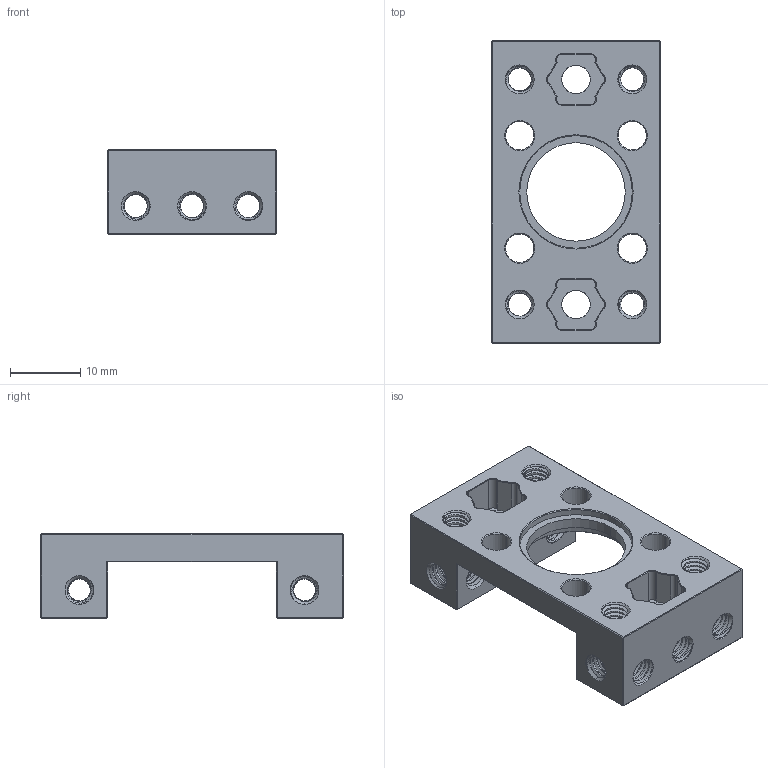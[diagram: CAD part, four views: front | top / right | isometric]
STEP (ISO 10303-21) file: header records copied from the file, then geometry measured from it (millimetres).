
FILE_DESCRIPTION (( 'STEP AP203' ), '1' );
FILE_NAME ('1201-0024-0001.STEP', '2021-02-05T21:26:14', ( '' ), ( '' ), 'SwSTEP 2.0', 'SolidWorks 2016', '' );
FILE_SCHEMA (( 'CONFIG_CONTROL_DESIGN' ));
Products named in the file (1): 1201-0024-0001
Bounding box: 24 x 43 x 12 mm (x, y, z)
Volume: 5037.7 mm3; surface area: 5417 mm2
Topology: 1 solids, 1 shells, 1461 faces, 4373 edges, 2881 vertices
Faces by surface type: cylinder 936, bspline 345, cone 104, plane 76
Entity records: 430519 total; most frequent: CARTESIAN_POINT 400272, ORIENTED_EDGE 8746, EDGE_CURVE 4373, DIRECTION 3589, VERTEX_POINT 2881, B_SPLINE_CURVE_WITH_KNOTS 1677, EDGE_LOOP 1514, ADVANCED_FACE 1461
